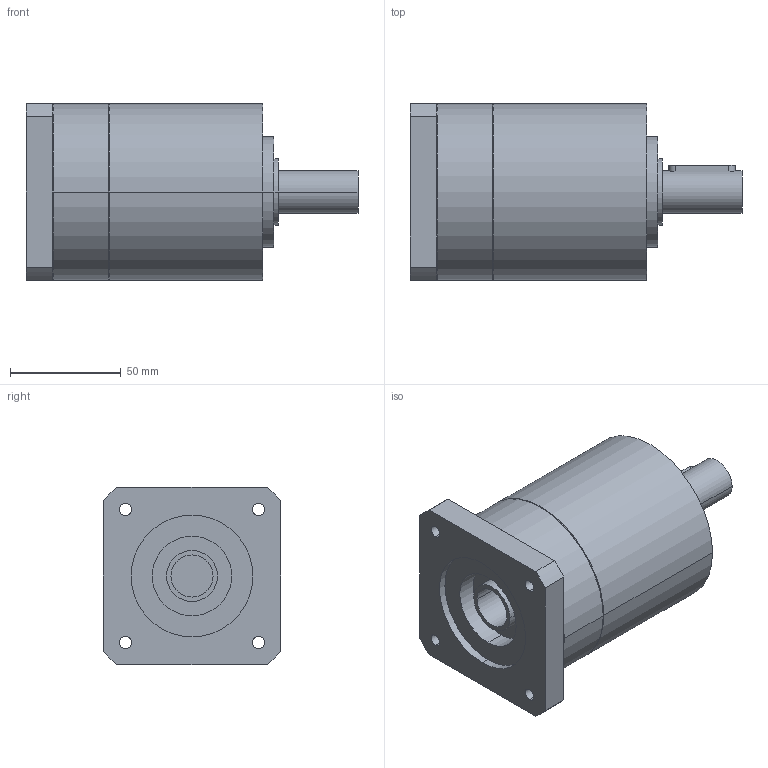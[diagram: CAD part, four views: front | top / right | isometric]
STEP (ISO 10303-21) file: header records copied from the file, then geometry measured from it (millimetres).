
FILE_DESCRIPTION(('CoCreate Modeling STEP Export'),'2;1');
FILE_NAME('GPR100_ig-3-4-5-6_19_B14_19_P20.stp','2014-08-26T10:08:49',(''),(''),'CoCreate Modeling STEP processor for AP214 (Solid Model)','CoCreate Modeling 16.00C 25-Feb-2009 (C) Parametric Technology GmbH','');
FILE_SCHEMA(('AUTOMOTIVE_DESIGN { 1 0 10303 214 1 1 1 1 }'));
Length unit declared in the file: millimetre
Products named in the file (2): GPR100_ig-3-4-5-6_19_B14_19_P20
Assembly tree (1 placements, depth 2):
  GPR100_ig-3-4-5-6_19_B14_19_P20
    GPR100_ig-3-4-5-6_19_B14_19_P20
Bounding box: 150 x 80 x 80 mm (x, y, z)
Volume: 546603.5 mm3; surface area: 50384.4 mm2
Topology: 1 solids, 1 shells, 86 faces, 223 edges, 151 vertices
Faces by surface type: cylinder 50, plane 30, cone 6
Entity records: 2267 total; most frequent: ORIENTED_EDGE 442, CARTESIAN_POINT 408, DIRECTION 312, EDGE_CURVE 221, VERTEX_POINT 151, AXIS2_PLACEMENT_3D 119, EDGE_LOOP 108, FACE_OUTER_BOUND 86
